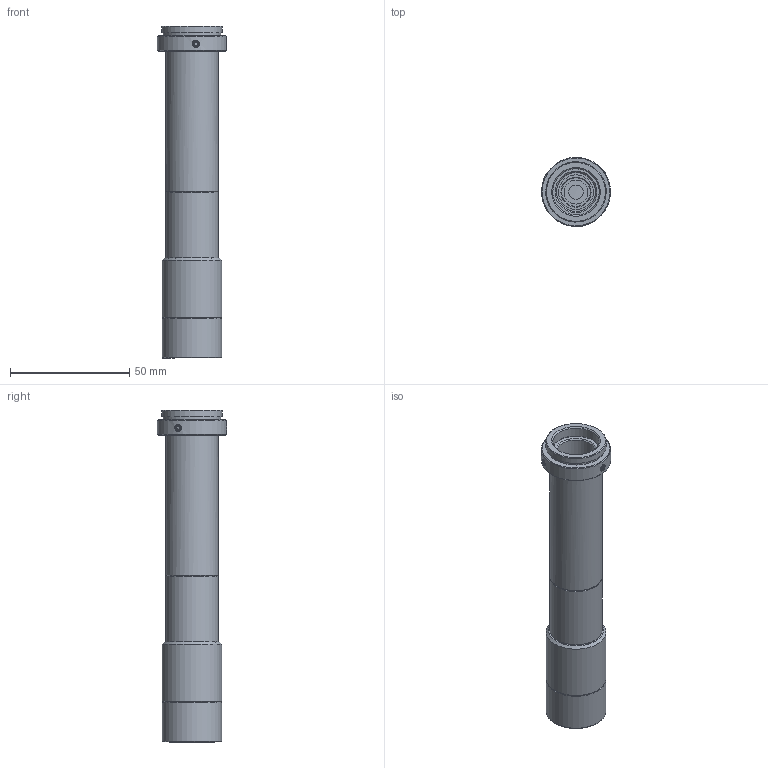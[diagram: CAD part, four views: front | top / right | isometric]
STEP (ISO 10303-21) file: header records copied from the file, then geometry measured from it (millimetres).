
FILE_DESCRIPTION(('STEP AP214'),'1');
FILE_NAME('RTK-6-M65.stp','2026-07-31T08:59:06',(' '),(' '),'Spatial InterOp 3D',' ',' ');
FILE_SCHEMA(('AUTOMOTIVE_DESIGN { 1 0 10303 214 1 1 1 1 }'));
Length unit declared in the file: metre
Products named in the file (2): RTK-6-M65; Component1
Assembly tree (1 placements, depth 2):
  RTK-6-M65
    Component1
Bounding box: 28.94 x 29.02 x 139.12 mm (x, y, z)
Volume: 31559.4 mm3; surface area: 22117.3 mm2
Topology: 1 solids, 9 shells, 186 faces, 388 edges, 257 vertices
Faces by surface type: plane 71, cone 61, cylinder 49, bspline 3, sphere 2
Full cylindrical faces by diameter (mm): 2.5 x3, 6 x1, 10 x2, 12 x3, 12.8 x1, 13.4 x1, 14.2 x1, 14.5 x1, 15 x1, 16.4 x2, 16.5 x1, 17.2 x2, 17.4 x3, 18 x1, 18.2 x2, 18.8 x1, 19 x4, 19.4 x1, 20 x2, 20.2 x1, 20.4 x1, 21.2 x1, 22 x6, 23 x1, 23.8 x1, 24.12 x1, 25 x2, 25.32 x1, 29 x1
Entity records: 6272 total; most frequent: CARTESIAN_POINT 1240, DIRECTION 752, ORIENTED_EDGE 520, AXIS2_PLACEMENT_3D 340, EDGE_LOOP 334, EDGE_CURVE 260, FACE_OUTER_BOUND 238, VERTEX_POINT 227
